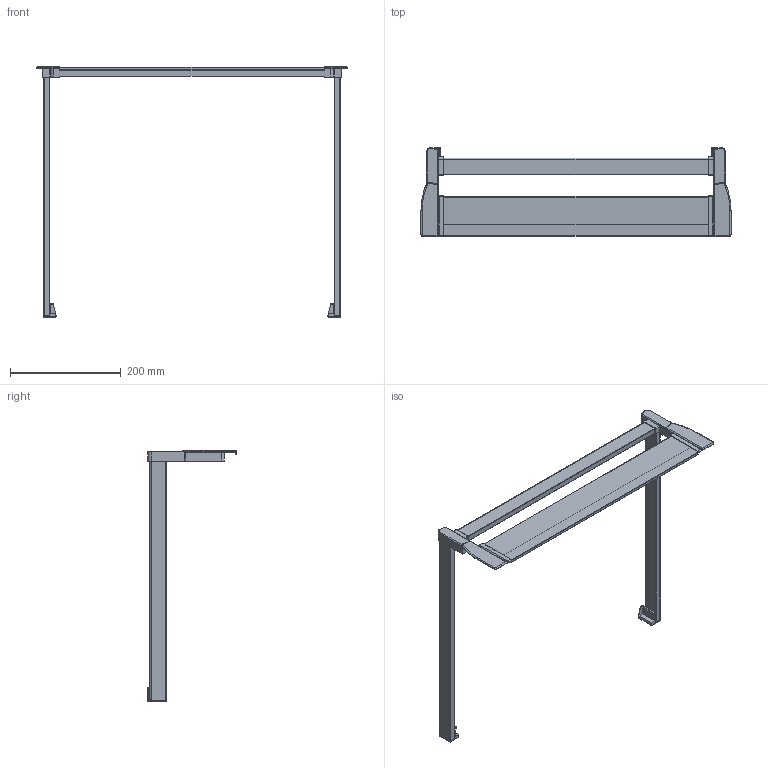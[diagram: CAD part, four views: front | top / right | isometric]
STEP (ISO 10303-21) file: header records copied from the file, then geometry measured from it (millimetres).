
FILE_DESCRIPTION (( 'STEP AP214' ), '1' );
FILE_NAME ('1_P620_NL 450_KAB 600_16er KS_.step', '2009-09-16T06:29:37', ( 'Waldinger Reinhard' ), ( 'Grass GmbH' ), 'SwSTEP 2.0', 'SolidWorks 2009', '' );
FILE_SCHEMA (( 'AUTOMOTIVE_DESIGN' ));
Length unit declared in the file: millimetre
Products named in the file (1): 1_P620_NL 450_KAB 600_16er KS_
Bounding box: 559.6 x 160.5 x 452.8 mm (x, y, z)
Volume: 955634 mm3; surface area: 226864.2 mm2
Topology: 1 solids, 1 shells, 220 faces, 578 edges, 364 vertices
Faces by surface type: plane 97, cylinder 91, torus 28, sphere 2, bspline 2
Entity records: 7004 total; most frequent: CARTESIAN_POINT 1345, DIRECTION 1198, ORIENTED_EDGE 1152, EDGE_CURVE 576, AXIS2_PLACEMENT_3D 433, VERTEX_POINT 364, VECTOR 332, LINE 332
